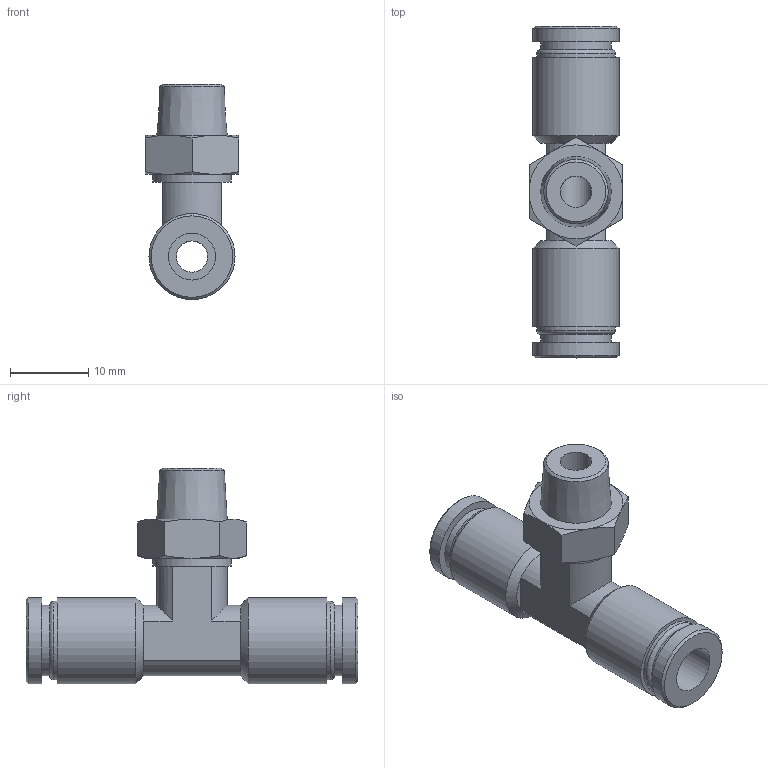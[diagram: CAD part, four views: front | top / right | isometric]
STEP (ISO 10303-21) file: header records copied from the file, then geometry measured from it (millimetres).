
FILE_DESCRIPTION(/* description */ (''),/* implementation_level */ '2;1');
FILE_NAME(/* name */ 'LXH31 0006 B1.stp',/* time_stamp */ '2026-04-22T20:56:10+02:00',/* author */ ('freju'),/* organization */ (''),/* preprocessor_version */ 'ST-DEVELOPER v20.1',/* originating_system */ 'Autodesk Inventor 2026',/* authorisation */ '');
FILE_SCHEMA (('AUTOMOTIVE_DESIGN { 1 0 10303 214 3 1 1 }'));
Length unit declared in the file: millimetre
Products named in the file (1): LXH31 0006 B1
Bounding box: 12 x 42.4 x 27.5 mm (x, y, z)
Volume: 3549.6 mm3; surface area: 3307.3 mm2
Topology: 1 solids, 1 shells, 62 faces, 133 edges, 81 vertices
Faces by surface type: plane 24, cylinder 18, cone 18, torus 2
Full cylindrical faces by diameter (mm): 4 x2, 6 x2, 9 x2, 10 x3, 11 x4
Entity records: 1707 total; most frequent: CARTESIAN_POINT 325, DIRECTION 302, ORIENTED_EDGE 266, EDGE_CURVE 133, AXIS2_PLACEMENT_3D 130, VERTEX_POINT 81, EDGE_LOOP 74, CIRCLE 63
